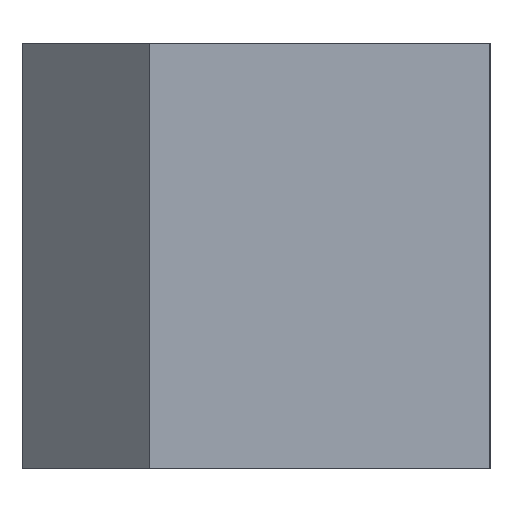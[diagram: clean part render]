
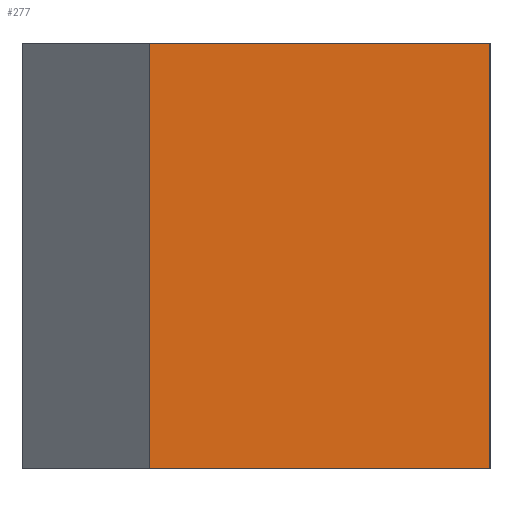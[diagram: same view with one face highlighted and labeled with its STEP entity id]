
A CAD part, left-side view. The second image highlights one B-rep face of the part: STEP entity #277.
In plain terms, the highlighted planar face has unit normal (-1, 0, 0).
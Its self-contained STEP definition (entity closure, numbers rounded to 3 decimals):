
#165 = DIRECTION ( 'NONE',  ( 1., 0., 0. ) ) ;
#201 = VECTOR ( 'NONE', #423, 1000. ) ;
#222 = CARTESIAN_POINT ( 'NONE',  ( -31., 44., 20. ) ) ;
#238 = VERTEX_POINT ( 'NONE', #860 ) ;
#277 = ADVANCED_FACE ( 'NONE', ( #1278 ), #722, .F. ) ;
#295 = EDGE_CURVE ( 'NONE', #1054, #1038, #509, .T. ) ;
#303 = CARTESIAN_POINT ( 'NONE',  ( -31., 44., -20. ) ) ;
#313 = EDGE_CURVE ( 'NONE', #978, #1054, #951, .T. ) ;
#335 = LINE ( 'NONE', #222, #1016 ) ;
#370 = ORIENTED_EDGE ( 'NONE', *, *, #313, .T. ) ;
#377 = VECTOR ( 'NONE', #403, 1000. ) ;
#396 = EDGE_LOOP ( 'NONE', ( #1222, #695, #370, #1048 ) ) ;
#403 = DIRECTION ( 'NONE',  ( 0., 0., 1. ) ) ;
#423 = DIRECTION ( 'NONE',  ( 0., 0., 1. ) ) ;
#439 = DIRECTION ( 'NONE',  ( 0., -1., 0. ) ) ;
#509 = LINE ( 'NONE', #1399, #377 ) ;
#530 = DIRECTION ( 'NONE',  ( 0., -1., 0. ) ) ;
#633 = CARTESIAN_POINT ( 'NONE',  ( -31., 0., 20. ) ) ;
#695 = ORIENTED_EDGE ( 'NONE', *, *, #1005, .F. ) ;
#704 = AXIS2_PLACEMENT_3D ( 'NONE', #1194, #165, #729 ) ;
#722 = PLANE ( 'NONE',  #704 ) ;
#729 = DIRECTION ( 'NONE',  ( 0., 1., 0. ) ) ;
#815 = CARTESIAN_POINT ( 'NONE',  ( -31., 32., -20. ) ) ;
#860 = CARTESIAN_POINT ( 'NONE',  ( -31., 32., 20. ) ) ;
#951 = LINE ( 'NONE', #303, #1254 ) ;
#978 = VERTEX_POINT ( 'NONE', #815 ) ;
#1005 = EDGE_CURVE ( 'NONE', #978, #238, #1055, .T. ) ;
#1016 = VECTOR ( 'NONE', #439, 1000. ) ;
#1038 = VERTEX_POINT ( 'NONE', #633 ) ;
#1048 = ORIENTED_EDGE ( 'NONE', *, *, #295, .T. ) ;
#1054 = VERTEX_POINT ( 'NONE', #1064 ) ;
#1055 = LINE ( 'NONE', #1402, #201 ) ;
#1064 = CARTESIAN_POINT ( 'NONE',  ( -31., 0., -20. ) ) ;
#1140 = EDGE_CURVE ( 'NONE', #238, #1038, #335, .T. ) ;
#1194 = CARTESIAN_POINT ( 'NONE',  ( -31., 44., 20. ) ) ;
#1222 = ORIENTED_EDGE ( 'NONE', *, *, #1140, .F. ) ;
#1254 = VECTOR ( 'NONE', #530, 1000. ) ;
#1278 = FACE_OUTER_BOUND ( 'NONE', #396, .T. ) ;
#1399 = CARTESIAN_POINT ( 'NONE',  ( -31., 0., 20. ) ) ;
#1402 = CARTESIAN_POINT ( 'NONE',  ( -31., 32., -20. ) ) ;
